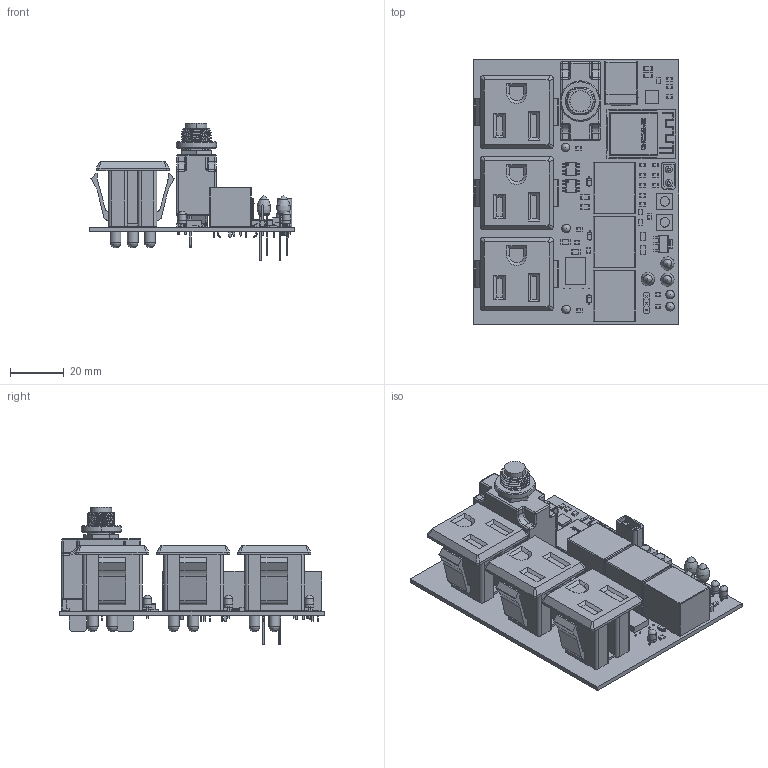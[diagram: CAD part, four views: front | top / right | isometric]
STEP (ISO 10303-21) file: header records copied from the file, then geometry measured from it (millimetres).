
FILE_DESCRIPTION(('Open CASCADE Model'),'2;1');
FILE_NAME('Open CASCADE Shape Model','2019-01-21T12:10:08',('Author'),( 'Open CASCADE'),'Open CASCADE STEP processor 6.5','Open CASCADE 6.5' ,'Unknown');
FILE_SCHEMA(('AUTOMOTIVE_DESIGN { 1 0 10303 214 1 1 1 1 }'));
Length unit declared in the file: millimetre
Products named in the file (148): PCB; Board; C8; 1508252080; Extruded; 1508256432; C7; C6; F1; c-9-1423364-6-c-3d; U5; 1508254256; U2; User_Library-SOIC-8-1; S2; 1263696416; Cylinder; 1508255024; 1508255152; 1508255408; S1; R21; 1508252720; 1508252976; R20; R19; R18; R17; R16; R15; R14; R13; 1508256176; 1508256304; R12; R11; R10; R9; R8; R7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
Assembly tree (268 placements, depth 4):
  PCB
    Board
    C8
      1508252080
        Extruded
      1508256432  x2
        Extruded
    C7
      1508252080
        Extruded
      1508256432  x2
        Extruded
    C6
      1508252080
        Extruded
      1508256432  x2
        Extruded
    F1
      c-9-1423364-6-c-3d
    U5
      1508254256
        Extruded
    U2
      User_Library-SOIC-8-1
    S2
      1263696416
        Cylinder
      1508255024  x2
        Extruded
      1508255152
        Extruded
      1508255408
        Extruded
    S1
      1263696416
        Cylinder
      1508255024  x2
        Extruded
      1508255152
        Extruded
      1508255408
        Extruded
    R21
      1508252720
        Extruded
      1508252976  x2
        Extruded
    R20
      1508252976  x2
        Extruded
      1508252720
        Extruded
    R19
      1508252976  x2
        Extruded
      1508252720
        Extruded
    R18
      1508252976  x2
        Extruded
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Bounding box: 75.95 x 98.2 x 50.91 mm (x, y, z)
Volume: 67204.4 mm3; surface area: 47691.6 mm2
Topology: 183 solids, 184 shells, 3981 faces, 10193 edges, 6627 vertices
Faces by surface type: plane 3173, cylinder 626, sphere 61, bspline 44, torus 32, cone 24, revolution 21
Full cylindrical faces by diameter (mm): 0.5 x6, 3 x5, 3.2 x5, 3.505 x2, 4 x9
Entity records: 213139 total; most frequent: CARTESIAN_POINT 60829, DIRECTION 25089, LINE 17116, VECTOR 17116, ORIENTED_EDGE 14218, PCURVE 14218, DEFINITIONAL_REPRESENTATION 14218, EDGE_CURVE 7116
